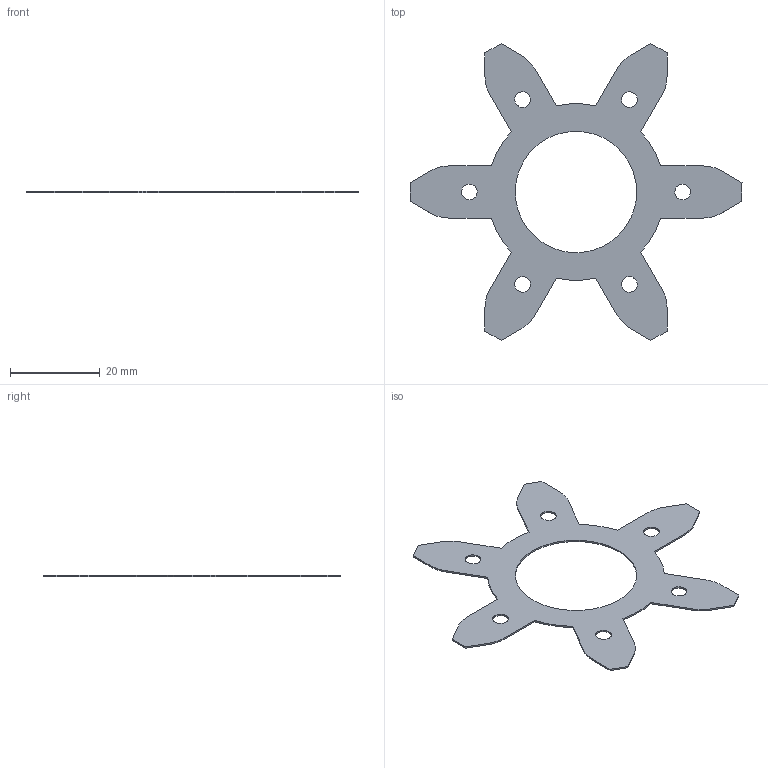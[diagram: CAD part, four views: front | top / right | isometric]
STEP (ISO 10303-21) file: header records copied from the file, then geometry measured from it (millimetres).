
FILE_DESCRIPTION ((), '1');
FILE_NAME ('F:\Energy Science\CAD Projects\Generator Research\TeslaGen_v1\Core\Rotor\six-Pole\sixPole-laminate.stp', '2015-12-06T09:05:14', ('Unknown'), ('Unknown'), 'HarmonyWare STEP v1.7.11', 'HarmonyWare Translators', '');
FILE_SCHEMA (('CONFIG_CONTROL_DESIGN'));
Length unit declared in the file: millimetre
Products named in the file (1): product-name
Bounding box: 73.88 x 66.05 x 0.35 mm (x, y, z)
Volume: 579.8 mm3; surface area: 3474.2 mm2
Topology: 1 solids, 1 shells, 57 faces, 165 edges, 110 vertices
Faces by surface type: bspline 57
Entity records: 1964 total; most frequent: CARTESIAN_POINT 960, ORIENTED_EDGE 330, EDGE_CURVE 165, VERTEX_POINT 110, B_SPLINE_CURVE_WITH_KNOTS 73, EDGE_LOOP 71, FACE_OUTER_BOUND 57, ADVANCED_FACE 57
